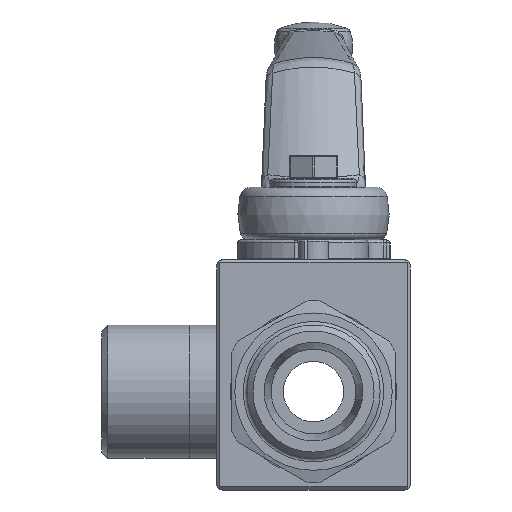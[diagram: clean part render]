
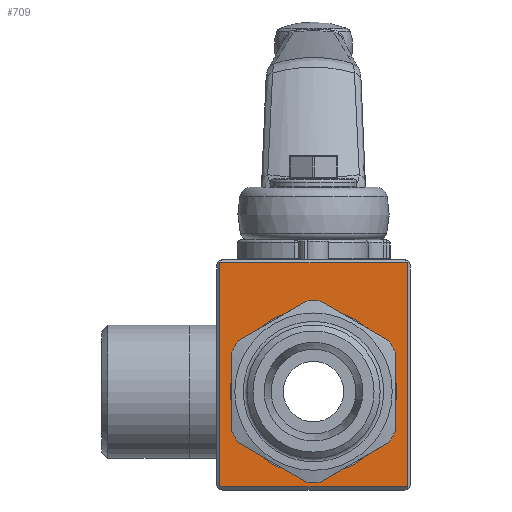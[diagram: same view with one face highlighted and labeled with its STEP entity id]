
A CAD part, front view. The second image highlights one B-rep face of the part: STEP entity #709.
In plain terms, the highlighted planar face has unit normal (0, -1, 0).
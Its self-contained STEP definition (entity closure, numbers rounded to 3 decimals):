
#709 = ADVANCED_FACE( '', ( #1620, #1621 ), #1622, .T. );
#1620 = FACE_OUTER_BOUND( '', #3192, .T. );
#1621 = FACE_BOUND( '', #3193, .T. );
#1622 = PLANE( '', #3194 );
#3192 = EDGE_LOOP( '', ( #5587, #5588, #5589, #5590 ) );
#3193 = EDGE_LOOP( '', ( #5591 ) );
#3194 = AXIS2_PLACEMENT_3D( '', #5592, #5593, #5594 );
#5587 = ORIENTED_EDGE( '', *, *, #8501, .T. );
#5588 = ORIENTED_EDGE( '', *, *, #8497, .T. );
#5589 = ORIENTED_EDGE( '', *, *, #8218, .T. );
#5590 = ORIENTED_EDGE( '', *, *, #8502, .T. );
#5591 = ORIENTED_EDGE( '', *, *, #8503, .T. );
#5592 = CARTESIAN_POINT( '', ( -16., -21.6, -16.25 ) );
#5593 = DIRECTION( '', ( 0., -1., 0. ) );
#5594 = DIRECTION( '', ( 0., 0., -1. ) );
#8218 = EDGE_CURVE( '', #9468, #9476, #9478, .T. );
#8497 = EDGE_CURVE( '', #9950, #9468, #9951, .T. );
#8501 = EDGE_CURVE( '', #9956, #9950, #9957, .T. );
#8502 = EDGE_CURVE( '', #9476, #9956, #9958, .T. );
#8503 = EDGE_CURVE( '', #9959, #9959, #9960, .T. );
#9468 = VERTEX_POINT( '', #11308 );
#9476 = VERTEX_POINT( '', #11318 );
#9478 = LINE( '', #11321, #11322 );
#9950 = VERTEX_POINT( '', #12241 );
#9951 = LINE( '', #12242, #12243 );
#9956 = VERTEX_POINT( '', #12249 );
#9957 = LINE( '', #12250, #12251 );
#9958 = LINE( '', #12252, #12253 );
#9959 = VERTEX_POINT( '', #12254 );
#9960 = CIRCLE( '', #12255, 13.75 );
#11308 = CARTESIAN_POINT( '', ( 15.5, -21.6, 21.25 ) );
#11318 = CARTESIAN_POINT( '', ( -15.5, -21.6, 21.25 ) );
#11321 = CARTESIAN_POINT( '', ( -16., -21.6, 21.25 ) );
#11322 = VECTOR( '', #14611, 1000. );
#12241 = CARTESIAN_POINT( '', ( 15.5, -21.6, -15.75 ) );
#12242 = CARTESIAN_POINT( '', ( 15.5, -21.6, 21.75 ) );
#12243 = VECTOR( '', #15001, 1000. );
#12249 = CARTESIAN_POINT( '', ( -15.5, -21.6, -15.75 ) );
#12250 = CARTESIAN_POINT( '', ( 16., -21.6, -15.75 ) );
#12251 = VECTOR( '', #15006, 1000. );
#12252 = CARTESIAN_POINT( '', ( -15.5, -21.6, -16.25 ) );
#12253 = VECTOR( '', #15007, 1000. );
#12254 = CARTESIAN_POINT( '', ( 13.75, -21.6, 0. ) );
#12255 = AXIS2_PLACEMENT_3D( '', #15008, #15009, #15010 );
#14611 = DIRECTION( '', ( -1., 0., 0. ) );
#15001 = DIRECTION( '', ( 0., 0., 1. ) );
#15006 = DIRECTION( '', ( 1., 0., 0. ) );
#15007 = DIRECTION( '', ( 0., 0., -1. ) );
#15008 = CARTESIAN_POINT( '', ( 0., -21.6, 0. ) );
#15009 = DIRECTION( '', ( 0., 1., 0. ) );
#15010 = DIRECTION( '', ( 1., 0., 0. ) );
